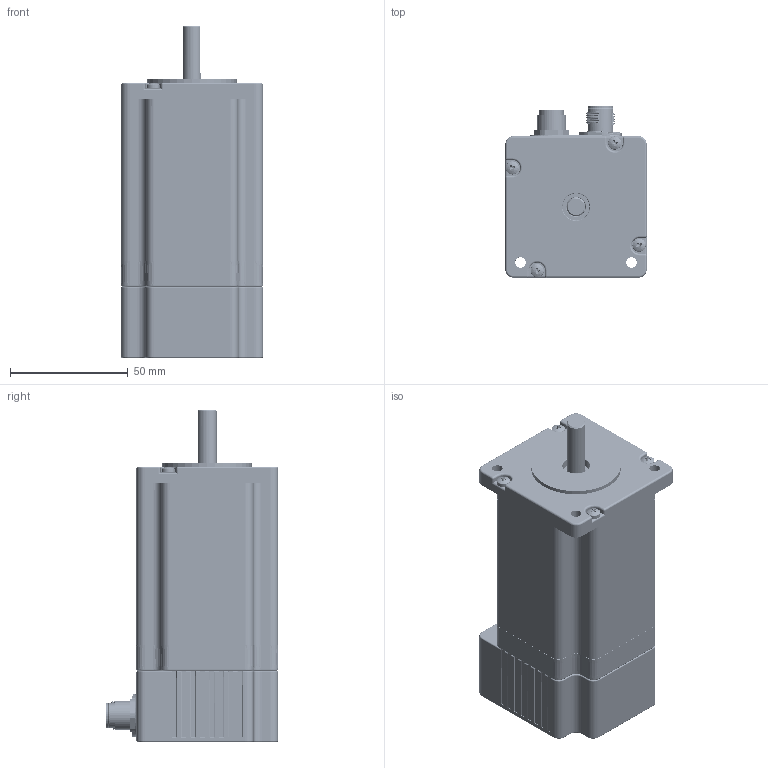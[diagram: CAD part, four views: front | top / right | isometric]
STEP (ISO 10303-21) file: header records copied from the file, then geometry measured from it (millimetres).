
FILE_DESCRIPTION (( 'STEP AP214' ), '1' );
FILE_NAME ('M60SH86-TM1611S05C.STEP', '2025-06-13T14:28:21', ( '' ), ( '' ), 'SwSTEP 2.0', 'SolidWorks 2019', '' );
FILE_SCHEMA (( 'AUTOMOTIVE_DESIGN' ));
Length unit declared in the file: millimetre
Products named in the file (1): M60SH86-TM1611S05C
Bounding box: 60.19 x 73.1 x 140.8 mm (x, y, z)
Volume: 211893.7 mm3; surface area: 104093.7 mm2
Topology: 20 solids, 20 shells, 5307 faces, 13647 edges, 8579 vertices
Faces by surface type: plane 1977, cylinder 1437, bspline 698, torus 606, cone 520, sphere 69
Entity records: 258204 total; most frequent: CARTESIAN_POINT 73720, ORIENTED_EDGE 27092, DIRECTION 25302, EDGE_CURVE 13546, AXIS2_PLACEMENT_3D 9298, VERTEX_POINT 8579, VECTOR 6706, LINE 6706
